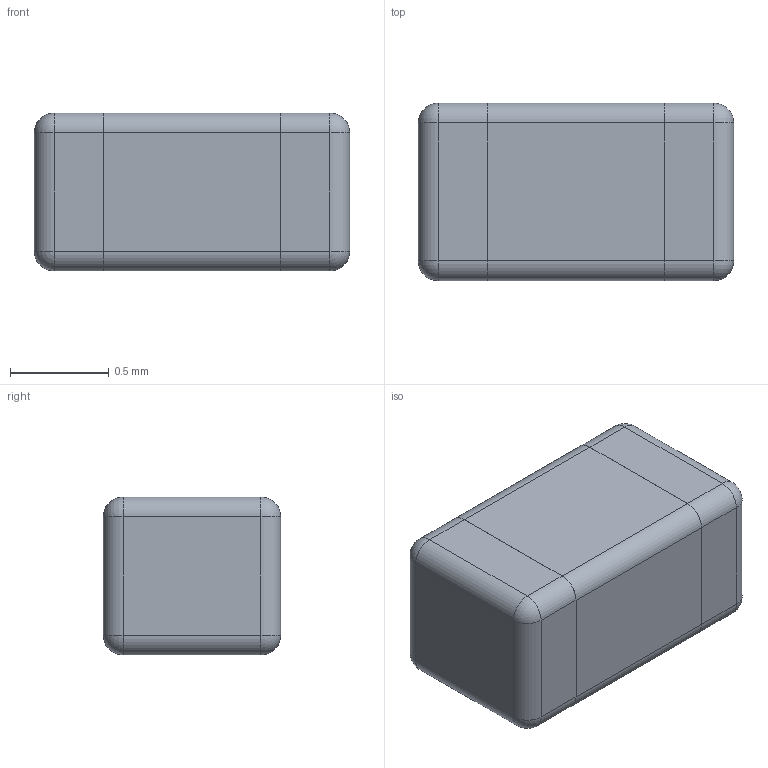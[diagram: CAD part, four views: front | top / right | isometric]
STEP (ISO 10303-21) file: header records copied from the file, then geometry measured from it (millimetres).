
FILE_DESCRIPTION (( 'STEP AP214' ), '1' );
FILE_NAME ( 'CAPC1608X90.STEP', '2013-08-13T09:45:57', ( '' ), ( '' ), 'FPX Expert 2013', 'PCB Libraries', '' );
FILE_SCHEMA (( 'AUTOMOTIVE_DESIGN' ));
Length unit declared in the file: millimetre
Products named in the file (1): CAPC1608X90
Bounding box: 1.6 x 0.9 x 0.8 mm (x, y, z)
Volume: 1.1 mm3; surface area: 9.2 mm2
Topology: 3 solids, 3 shells, 46 faces, 104 edges, 56 vertices
Faces by surface type: cylinder 20, plane 18, sphere 8
Entity records: 1380 total; most frequent: DIRECTION 230, CARTESIAN_POINT 199, ORIENTED_EDGE 192, EDGE_CURVE 96, AXIS2_PLACEMENT_3D 87, VERTEX_POINT 56, VECTOR 56, LINE 56
